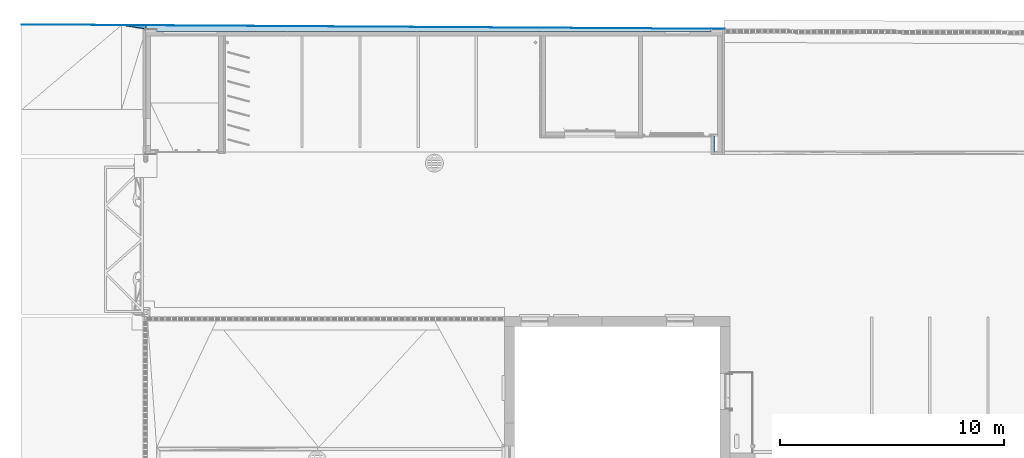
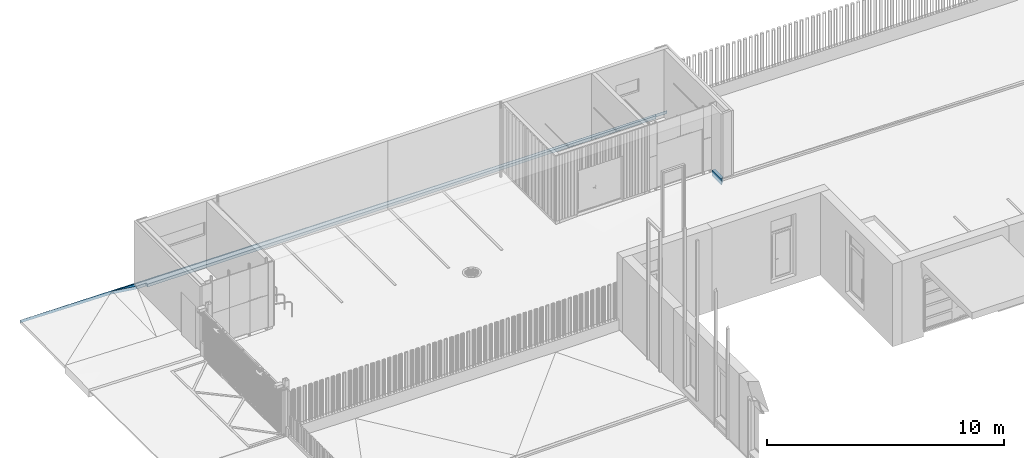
# One storey, part 12 of 77: 5 slabs, 2 elements without a shape of their own.
"""IFC2X3 building model written with IfcOpenShell, lengths in millimetres."""

from ifc_helpers import new_model, entity, si_unit, converted_unit, derived_unit, direction, frame, origin, place, context, subcontext, project, spatial, polyline, outline, extrude, element, aggregate, save


model = new_model("IFC2X3")

# Units and contexts
model_context = context("Model", 3, precision=0.01, world=origin(), true_north=direction((6.12303176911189e-17, 1.0)))
body_context = subcontext(model_context, "Body", "Model", "MODEL_VIEW")
ifc_project = project(units=[si_unit("LENGTHUNIT", "METRE", prefix="MILLI"), si_unit("AREAUNIT", "SQUARE_METRE"), si_unit("VOLUMEUNIT", "CUBIC_METRE"), converted_unit("PLANEANGLEUNIT", "DEGREE", entity("IfcRatioMeasure", 0.0174532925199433), si_unit("PLANEANGLEUNIT", "RADIAN"), dimensions=[0, 0, 0, 0, 0, 0, 0]), si_unit("MASSUNIT", "GRAM", prefix="KILO"), derived_unit("MASSDENSITYUNIT", [(si_unit("MASSUNIT", "GRAM", prefix="KILO"), 1), (si_unit("LENGTHUNIT", "METRE"), -3)]), si_unit("TIMEUNIT", "SECOND"), si_unit("FREQUENCYUNIT", "HERTZ"), si_unit("THERMODYNAMICTEMPERATUREUNIT", "DEGREE_CELSIUS"), derived_unit("THERMALTRANSMITTANCEUNIT", [(si_unit("MASSUNIT", "GRAM", prefix="KILO"), 1), (si_unit("THERMODYNAMICTEMPERATUREUNIT", "KELVIN"), -1), (si_unit("TIMEUNIT", "SECOND"), -3)]), derived_unit("VOLUMETRICFLOWRATEUNIT", [(si_unit("LENGTHUNIT", "METRE"), 3), (si_unit("TIMEUNIT", "SECOND"), -1)]), si_unit("ELECTRICCURRENTUNIT", "AMPERE"), si_unit("ELECTRICVOLTAGEUNIT", "VOLT"), si_unit("POWERUNIT", "WATT"), si_unit("FORCEUNIT", "NEWTON", prefix="KILO"), si_unit("ILLUMINANCEUNIT", "LUX"), si_unit("LUMINOUSFLUXUNIT", "LUMEN"), si_unit("LUMINOUSINTENSITYUNIT", "CANDELA"), derived_unit("USERDEFINED", [(si_unit("MASSUNIT", "GRAM", prefix="KILO"), -1), (si_unit("LENGTHUNIT", "METRE"), -2), (si_unit("TIMEUNIT", "SECOND"), 3), (si_unit("LUMINOUSFLUXUNIT", "LUMEN"), 1)]), derived_unit("LINEARVELOCITYUNIT", [(si_unit("LENGTHUNIT", "METRE"), 1), (si_unit("TIMEUNIT", "SECOND"), -1)]), si_unit("PRESSUREUNIT", "PASCAL"), derived_unit("USERDEFINED", [(si_unit("LENGTHUNIT", "METRE"), -2), (si_unit("MASSUNIT", "GRAM", prefix="KILO"), 1), (si_unit("TIMEUNIT", "SECOND"), -2)])], contexts=[model_context])

# Site, building, storey
site_placement = place(None, origin())
site = spatial("IfcSite", under=ifc_project, at=site_placement, Name="Default", CompositionType="ELEMENT")
building_placement = place(site_placement, origin())
building = spatial("IfcBuilding", under=site, at=building_placement, CompositionType="ELEMENT")
storey_placement = place(building_placement, origin())
storey = spatial("IfcBuildingStorey", under=building, at=storey_placement, Name="1. KORRUS", CompositionType="ELEMENT", Elevation=0.0)

# Slabs
slab_1_placement = place(storey_placement, frame((-22032.2669129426, 37300.0, -240.0)))
slab_1 = element("IfcSlab", 1, at=slab_1_placement, inside=storey, Name="Floor:Muru", ObjectType="Floor:Muru", PredefinedType="NOTDEFINED")
slab_2_placement = place(slab_1_placement, origin())
slab_2 = element("IfcSlab", 2, at=slab_2_placement, Name="Floor:Muru", ObjectType="Floor:Muru", PredefinedType="NOTDEFINED", context=body_context, shape_type="SweptSolid", body=[
    extrude(outline(polyline([(12937.5, -35.4728923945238), (12937.5, 135.47289239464), (-12937.5, -24.6402124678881), (-12937.5, -35.4728923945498), (-12337.5, -35.4728923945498), (-12337.5, -135.472892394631), (12462.5, -135.472892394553), (12462.5, -35.4728923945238), (12937.5, -35.4728923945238)])), frame((18494.5317262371, 3635.5723268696, 190.0), z_axis=(0.0, 0.0, -1.0), x_axis=(-1.0, 0.0, 0.0)), (0.0, 0.0, 1.0), 150.0),
])
slab_3_placement = place(slab_1_placement, origin())
slab_3 = element("IfcSlab", 3, at=slab_3_placement, Name="Floor:Muru", ObjectType="Floor:Muru", PredefinedType="NOTDEFINED", context=body_context, shape_type="SweptSolid", body=[
    extrude(outline(polyline([(548.272222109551, -89.1804109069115), (548.272222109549, 81.7653738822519), (-548.272222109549, 89.1804109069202), (548.272222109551, -89.1804109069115)])), frame((5008.86067587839, 3689.27984538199, 200.532287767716), z_axis=(0.0192099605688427, 0.0, 0.999815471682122), x_axis=(0.999815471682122, 0.0, -0.0192099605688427)), (0.0192099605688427, 0.0, -0.999815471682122), 150.0),
])
slab_4_placement = place(slab_1_placement, origin())
slab_4 = element("IfcSlab", 4, at=slab_4_placement, Name="Floor:Muru", ObjectType="Floor:Muru", PredefinedType="NOTDEFINED", context=body_context, shape_type="SweptSolid", body=[
    extrude(outline(polyline([(15716.3641087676, -20.7677089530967), (-15716.263962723, 59.8260069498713), (-11255.4897066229, 9.32996205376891), (15716.3641087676, -20.7677089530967)])), frame((15715.9657910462, 3708.72467664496, 205.49943858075), z_axis=(-0.00615986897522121, -0.998516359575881, 0.0541030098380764), x_axis=(0.999981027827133, -0.00615084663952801, 0.00033327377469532)), (-0.00033327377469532, -0.998535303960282, -0.0541030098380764), 150.0),
])
slab_5_placement = place(slab_1_placement, origin())
slab_5 = element("IfcSlab", 5, at=slab_5_placement, Name="Floor:Muru", ObjectType="Floor:Muru", PredefinedType="NOTDEFINED", context=body_context, shape_type="SweptSolid", body=[
    extrude(outline(polyline([(13485.9387751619, -2.92667437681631), (-13485.9192332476, 23.1440523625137), (-12389.5561617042, 1.86692196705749), (13485.9387751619, -2.92667437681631)])), frame((17946.3509051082, 3694.39360360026, 190.428128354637), z_axis=(-0.00618505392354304, -0.999532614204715, 0.0299382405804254), x_axis=(0.999980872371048, -0.00618228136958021, 0.000185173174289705)), (-0.000185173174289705, -0.999551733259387, -0.0299382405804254), 150.0),
])
aggregate(slab_1, [slab_2, slab_3, slab_4, slab_5])

slab_6_placement = place(storey_placement, frame((8824.76481329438, 35299.999434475, -480.0)))
slab_6 = element("IfcSlab", 6, at=slab_6_placement, inside=storey, Name="Floor:äärekivi", ObjectType="Floor:äärekivi", PredefinedType="NOTDEFINED")
slab_7_placement = place(slab_6_placement, origin())
slab_7 = element("IfcSlab", 7, at=slab_7_placement, Name="Floor:äärekivi", ObjectType="Floor:äärekivi", PredefinedType="NOTDEFINED", context=body_context, shape_type="SweptSolid", body=[
    extrude(outline(polyline([(75.0, -250.254670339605), (75.0, 400.0), (-75.0, 400.0), (-75.0, -400.0), (75.0, -250.254670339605)])), frame((75.0, 400.0, 480.0)), (0.0, 0.0, -1.0), 300.0),
])
aggregate(slab_6, [slab_7])

save(model, "model.ifc")
